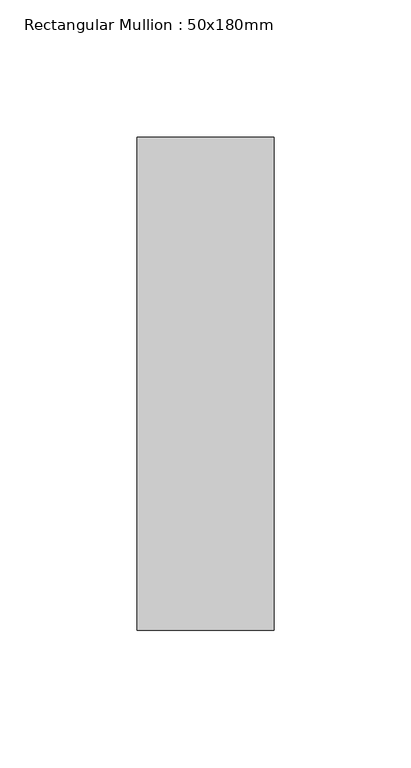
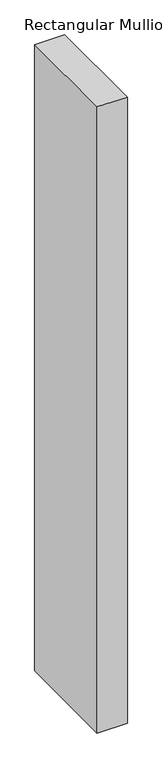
"""IFC4 building model written with IfcOpenShell, lengths in millimetres: member geometry, Rectangular Mullion : 50x180mm."""

from ifc_helpers import new_model, si_unit, frame, origin, place, context, project, spatial, polyline, outline, extrude, source, transform, mapped, element, save


def rectangular_mullion_50x180mm_7153291d(model_context):
    return source(origin(), model_context, "Body", "SweptSolid", [
        extrude(outline(polyline([(0.0, 90.0), (0.0, -90.0), (-50.0, -90.0), (-50.0, 90.0), (0.0, 90.0)])), frame((0.0, 0.0, -1100.0), z_axis=(0.0, 0.0, 1.0), x_axis=(1.0, 0.0, 0.0)), (0.0, 0.0, 1.0), 1100.0),
    ])


if __name__ == "__main__":
    model = new_model("IFC4")
    model_context = context("Model", 3, world=origin())
    ifc_project = project(units=[si_unit("LENGTHUNIT", "METRE", prefix="MILLI")], contexts=[model_context])
    site = spatial("IfcSite", under=ifc_project)
    building = spatial("IfcBuilding", under=site)
    placement = place(None, origin())
    rectangular_mullion_50x180mm_shape = rectangular_mullion_50x180mm_7153291d(model_context)
    element("IfcMember", 1, ObjectType="Rectangular Mullion : 50x180mm", at=placement, inside=building, context=model_context, shape_type="MappedRepresentation", body=[
        mapped(rectangular_mullion_50x180mm_shape, transform((0.0, 0.0, 0.0), x_axis=(1.0, 0.0, 0.0), y_axis=(0.0, 1.0, 0.0), z_axis=(0.0, 0.0, 1.0))),
    ])
    save(model, "model.ifc")
